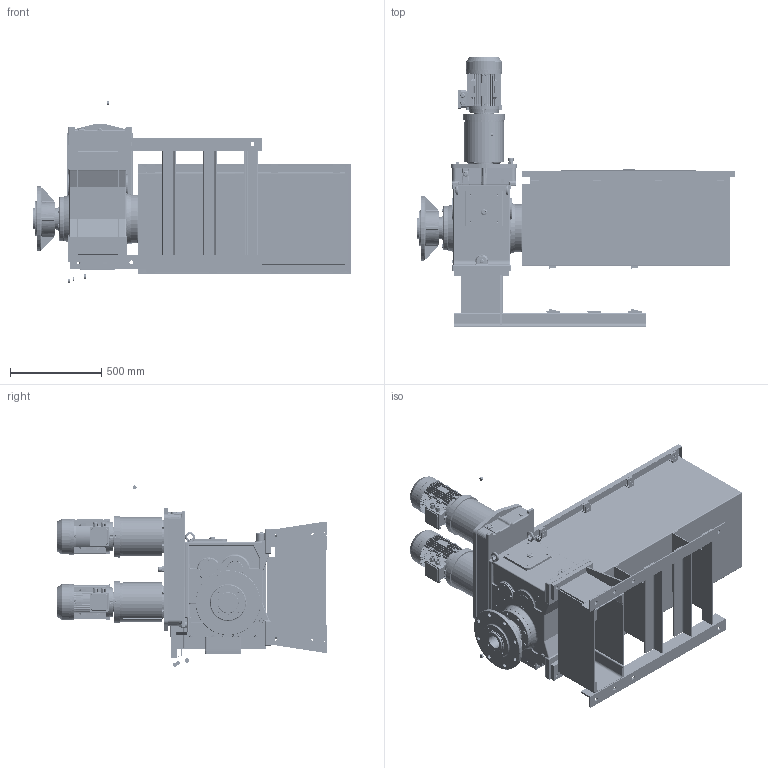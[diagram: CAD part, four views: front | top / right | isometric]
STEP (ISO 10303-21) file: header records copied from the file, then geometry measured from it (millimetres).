
FILE_DESCRIPTION(/* description */ (''),/* implementation_level */ '2;1');
FILE_NAME(/* name */ 'K:\NEMANJA\CABLE REEL\CABLE REEL DA\0700-6\07006002 DAPR-MCGBSR\STEP\75934.stp',/* time_stamp */ '2017-03-16T10:44:21+01:00',/* author */ ('zeldjo01'),/* organization */ ('Hillmar Industries Ltd.'),/* preprocessor_version */ 'ST-DEVELOPER v16.1',/* originating_system */ 'Autodesk Inventor 2016',/* authorisation */ '');
FILE_SCHEMA (('AUTOMOTIVE_DESIGN { 1 0 10303 214 3 1 1 }'));
Products named in the file (1): 75934
Bounding box: 1746.25 x 1482.55 x 996.06 mm (x, y, z)
Volume: 70585295.6 mm3; surface area: 16338712.7 mm2
Topology: 24 solids, 24 shells, 9953 faces, 27094 edges, 17525 vertices
Faces by surface type: plane 6432, cylinder 1938, cone 726, bspline 529, torus 281, sphere 47
Full cylindrical faces by diameter (mm): 3 x8, 7 x4, 8 x26, 8.376 x18, 8.731 x1, 9 x16, 10 x22, 10.106 x58, 10.38 x3, 11 x20, 11.053 x8, 12 x18, 12.5 x6, 13 x34, 13.2 x3, 13.5 x8, 14 x12, 15 x11, 16.974 x4, 17.2 x8, 17.294 x4, 17.336 x1, 17.4 x3, 17.475 x1, 18 x7, 18.256 x3, 18.38 x4, 20 x14, 20.123 x2, 20.5 x4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
Entity records: 332711 total; most frequent: CARTESIAN_POINT 79369, ORIENTED_EDGE 51662, DIRECTION 47584, EDGE_CURVE 25796, VERTEX_POINT 17073, LINE 16220, VECTOR 16220, AXIS2_PLACEMENT_3D 15682
